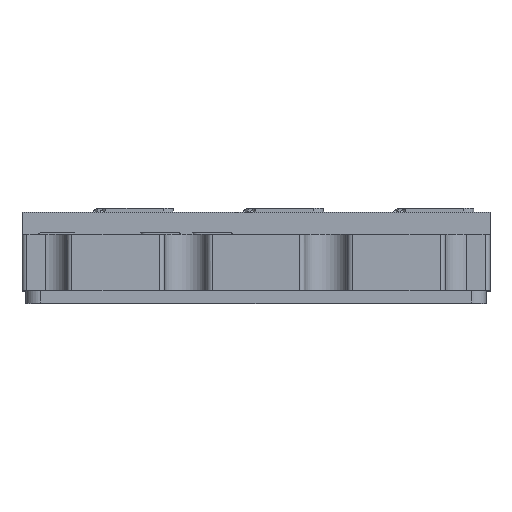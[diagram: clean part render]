
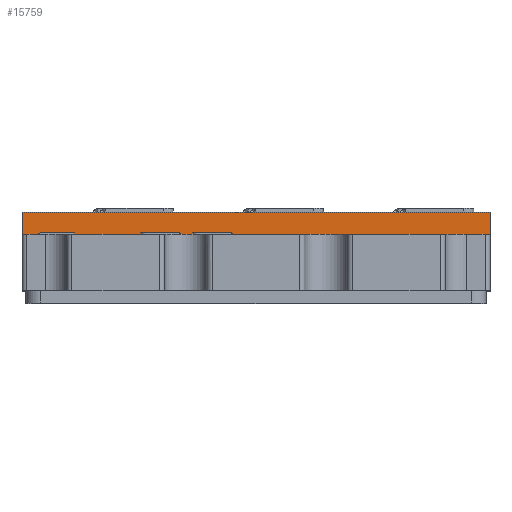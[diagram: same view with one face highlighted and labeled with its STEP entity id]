
A CAD part, top view. The second image highlights one B-rep face of the part: STEP entity #15759.
In plain terms, the highlighted planar face has unit normal (0, 0, 1).
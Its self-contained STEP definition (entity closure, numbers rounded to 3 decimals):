
#1948 = CARTESIAN_POINT ( 'NONE',  ( -95., 0., 32.5 ) ) ;
#2867 = DIRECTION ( 'NONE',  ( 0., -1., 0. ) ) ;
#2868 = VECTOR ( 'NONE', #2867, 1000. ) ;
#2869 = CARTESIAN_POINT ( 'NONE',  ( -95., 9., 32.5 ) ) ;
#2870 = LINE ( 'NONE', #2869, #2868 ) ;
#3043 = DIRECTION ( 'NONE',  ( 0., -1., 0. ) ) ;
#3044 = VECTOR ( 'NONE', #3043, 1000. ) ;
#3045 = CARTESIAN_POINT ( 'NONE',  ( 95., 9., 32.5 ) ) ;
#3046 = LINE ( 'NONE', #3045, #3044 ) ;
#3184 = AXIS2_PLACEMENT_3D ( 'NONE', #3221, #3219, #3218 ) ;
#3218 = DIRECTION ( 'NONE',  ( 1., 0., 0. ) ) ;
#3219 = DIRECTION ( 'NONE',  ( 0., 0., 1. ) ) ;
#3221 = CARTESIAN_POINT ( 'NONE',  ( -95., 9., 32.5 ) ) ;
#3228 = PLANE ( 'NONE',  #3184 ) ;
#3229 = FACE_OUTER_BOUND ( 'NONE', #15771, .T. ) ;
#6472 = DIRECTION ( 'NONE',  ( 1., 0., 0. ) ) ;
#6473 = VECTOR ( 'NONE', #6472, 1000. ) ;
#6474 = CARTESIAN_POINT ( 'NONE',  ( -95., 0., 32.5 ) ) ;
#6475 = LINE ( 'NONE', #6474, #6473 ) ;
#6510 = CARTESIAN_POINT ( 'NONE',  ( 95., 0., 32.5 ) ) ;
#13482 = VERTEX_POINT ( 'NONE', #26879 ) ;
#13566 = VERTEX_POINT ( 'NONE', #27016 ) ;
#13567 = EDGE_CURVE ( 'NONE', #13482, #13566, #27010, .T. ) ;
#14921 = VERTEX_POINT ( 'NONE', #1948 ) ;
#15493 = EDGE_CURVE ( 'NONE', #13482, #14921, #2870, .T. ) ;
#15659 = EDGE_CURVE ( 'NONE', #13566, #28962, #3046, .T. ) ;
#15759 = ADVANCED_FACE ( 'NONE', ( #3229 ), #3228, .T. ) ;
#15761 = ORIENTED_EDGE ( 'NONE', *, *, #13567, .F. ) ;
#15763 = ORIENTED_EDGE ( 'NONE', *, *, #15659, .F. ) ;
#15766 = ORIENTED_EDGE ( 'NONE', *, *, #15493, .T. ) ;
#15771 = EDGE_LOOP ( 'NONE', ( #15774, #15763, #15761, #15766 ) ) ;
#15774 = ORIENTED_EDGE ( 'NONE', *, *, #28934, .T. ) ;
#26879 = CARTESIAN_POINT ( 'NONE',  ( -95., 9., 32.5 ) ) ;
#27007 = DIRECTION ( 'NONE',  ( 1., 0., 0. ) ) ;
#27008 = VECTOR ( 'NONE', #27007, 1000. ) ;
#27009 = CARTESIAN_POINT ( 'NONE',  ( -95., 9., 32.5 ) ) ;
#27010 = LINE ( 'NONE', #27009, #27008 ) ;
#27016 = CARTESIAN_POINT ( 'NONE',  ( 95., 9., 32.5 ) ) ;
#28934 = EDGE_CURVE ( 'NONE', #14921, #28962, #6475, .T. ) ;
#28962 = VERTEX_POINT ( 'NONE', #6510 ) ;
